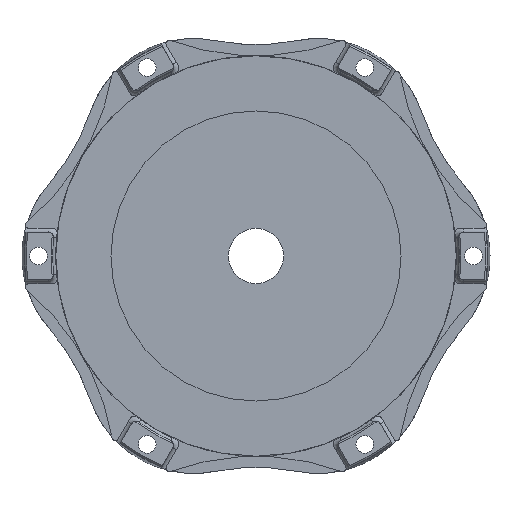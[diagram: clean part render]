
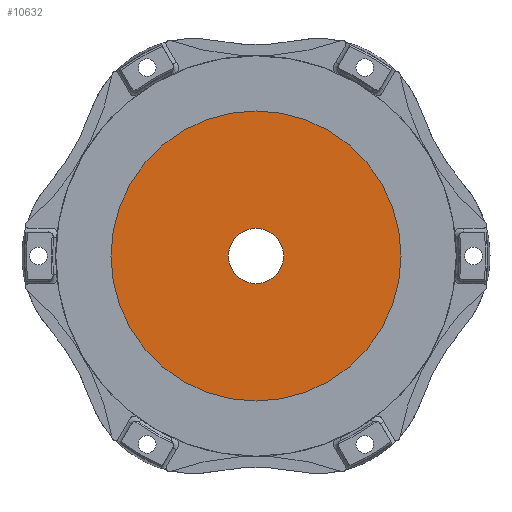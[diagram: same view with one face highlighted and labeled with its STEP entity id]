
A CAD part, left-side view. The second image highlights one B-rep face of the part: STEP entity #10632.
In plain terms, the highlighted planar face has unit normal (-1, 0, 0).
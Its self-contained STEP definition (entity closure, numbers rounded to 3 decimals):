
#4418=ORIENTED_EDGE('',*,*,#6494,.F.);
#4419=ORIENTED_EDGE('',*,*,#6544,.T.);
#6494=EDGE_CURVE('',#7735,#7735,#8473,.T.);
#6544=EDGE_CURVE('',#7776,#7776,#8502,.T.);
#7735=VERTEX_POINT('',#18300);
#7776=VERTEX_POINT('',#18401);
#8473=CIRCLE('',#11720,12.7);
#8502=CIRCLE('',#11759,66.675);
#9074=EDGE_LOOP('',(#4418));
#9075=EDGE_LOOP('',(#4419));
#9772=FACE_BOUND('',#9074,.T.);
#9773=FACE_BOUND('',#9075,.T.);
#10098=PLANE('',#11760);
#10632=ADVANCED_FACE('',(#9772,#9773),#10098,.F.);
#11720=AXIS2_PLACEMENT_3D('',#18299,#14327,#14328);
#11759=AXIS2_PLACEMENT_3D('',#18400,#14426,#14427);
#11760=AXIS2_PLACEMENT_3D('',#18402,#14428,#14429);
#14327=DIRECTION('',(-1.,0.,0.));
#14328=DIRECTION('',(0.,0.,1.));
#14426=DIRECTION('',(-1.,0.,0.));
#14427=DIRECTION('',(0.,0.,1.));
#14428=DIRECTION('',(1.,0.,0.));
#14429=DIRECTION('',(0.,0.,-1.));
#18299=CARTESIAN_POINT('',(12.497,0.,0.));
#18300=CARTESIAN_POINT('',(12.497,0.,12.7));
#18400=CARTESIAN_POINT('',(12.497,0.,0.));
#18401=CARTESIAN_POINT('',(12.497,0.,66.675));
#18402=CARTESIAN_POINT('',(12.497,0.,66.675));
